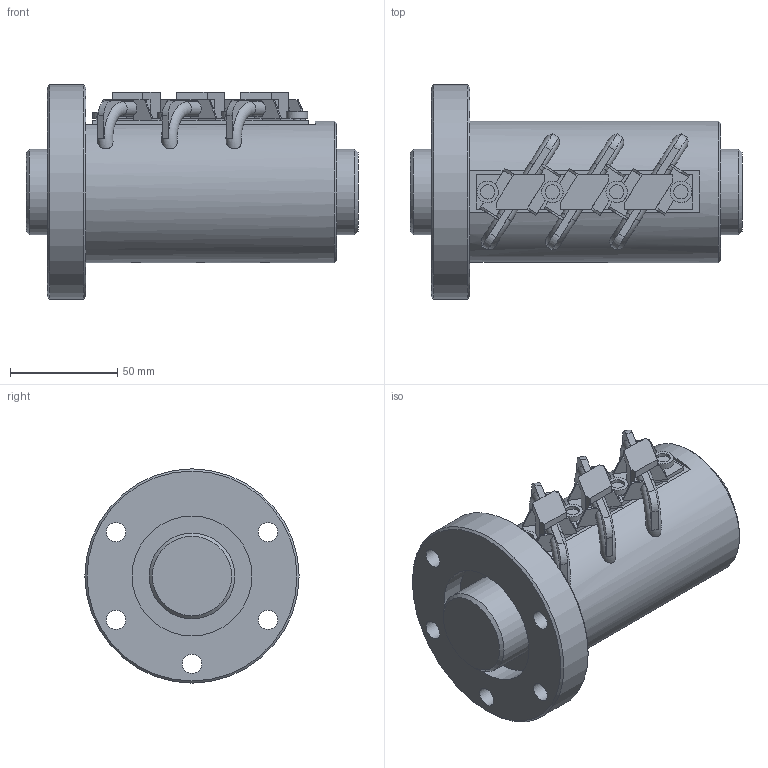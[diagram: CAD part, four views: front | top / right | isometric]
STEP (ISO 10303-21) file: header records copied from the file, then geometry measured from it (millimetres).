
FILE_DESCRIPTION(/* description */ ('STEP AP203'),/* implementation_level */ '2;1');
FILE_NAME(/* name */ 'HBN4010-7.5RRG2+155LC0(0G200)_rev',/* time_stamp */ '2024-06-22T06:31:06+02:00',/* author */ ('License CC BY-ND 4.0'),/* organization */ ('CADENAS'),/* preprocessor_version */ 'ST-DEVELOPER v19.3',/* originating_system */ 'PARTsolutions',/* authorisation */ ' ');
FILE_SCHEMA (('CONFIG_CONTROL_DESIGN'));
Length unit declared in the file: millimetre
Products named in the file (3): HBN4010-7.5RRG2+155LC0(0G200)_rev; HBN4010-7.5 RRG1+155L C0(01000) Shaft; HBN4010-7.5 RRG1+145L C0(0100) Nut
Assembly tree (2 placements, depth 2):
  HBN4010-7.5RRG2+155LC0(0G200)_rev
    HBN4010-7.5 RRG1+155L C0(01000) Shaft
    HBN4010-7.5 RRG1+145L C0(0100) Nut
Bounding box: 155 x 100 x 100 mm (x, y, z)
Volume: 552116.6 mm3; surface area: 96943.7 mm2
Topology: 2 solids, 2 shells, 248 faces, 711 edges, 452 vertices
Faces by surface type: plane 193, cylinder 38, cone 11, torus 6
Full cylindrical faces by diameter (mm): 4.917 x3, 6.667 x4, 9 x5, 10 x4, 40 x2, 56 x2, 66 x1, 100 x1
Entity records: 7979 total; most frequent: CARTESIAN_POINT 1556, ORIENTED_EDGE 1310, DIRECTION 1252, EDGE_CURVE 655, LINE 504, VECTOR 504, VERTEX_POINT 438, AXIS2_PLACEMENT_3D 374
